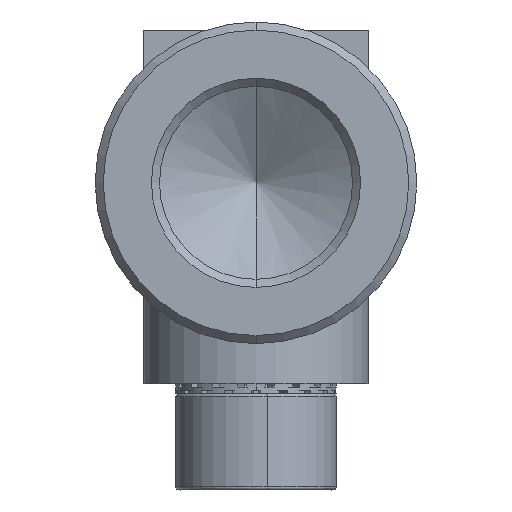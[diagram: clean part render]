
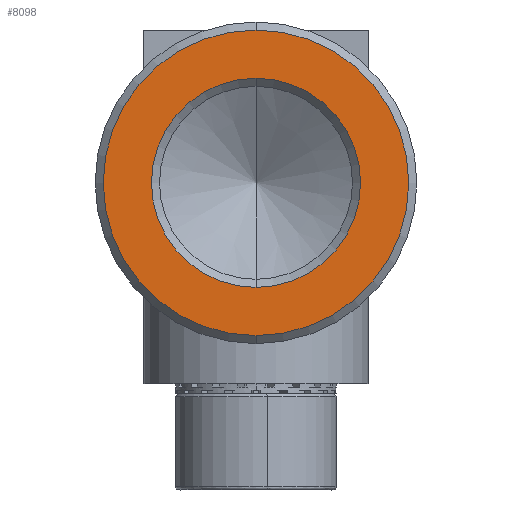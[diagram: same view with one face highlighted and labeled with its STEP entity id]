
A CAD part, front view. The second image highlights one B-rep face of the part: STEP entity #8098.
In plain terms, the highlighted planar face has unit normal (0, -1, 0).
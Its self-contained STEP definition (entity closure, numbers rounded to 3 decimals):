
#310 = EDGE_LOOP ( 'NONE', ( #1474, #7161 ) ) ;
#324 = DIRECTION ( 'NONE',  ( 0., 0., -1. ) ) ;
#728 = DIRECTION ( 'NONE',  ( 0., 0., -1. ) ) ;
#1307 = EDGE_CURVE ( 'NONE', #7015, #9405, #9366, .T. ) ;
#1474 = ORIENTED_EDGE ( 'NONE', *, *, #2916, .T. ) ;
#1588 = DIRECTION ( 'NONE',  ( 0., 0., -1. ) ) ;
#1803 = ORIENTED_EDGE ( 'NONE', *, *, #2741, .T. ) ;
#1867 = PLANE ( 'NONE',  #2177 ) ;
#1916 = VERTEX_POINT ( 'NONE', #8517 ) ;
#2177 = AXIS2_PLACEMENT_3D ( 'NONE', #3542, #5874, #324 ) ;
#2407 = DIRECTION ( 'NONE',  ( 0., -1., 0. ) ) ;
#2441 = CARTESIAN_POINT ( 'NONE',  ( -12.789, -145.81, 1.5 ) ) ;
#2638 = VERTEX_POINT ( 'NONE', #7727 ) ;
#2741 = EDGE_CURVE ( 'NONE', #1916, #2638, #3861, .T. ) ;
#2916 = EDGE_CURVE ( 'NONE', #9405, #7015, #5468, .T. ) ;
#2975 = ORIENTED_EDGE ( 'NONE', *, *, #9807, .T. ) ;
#3542 = CARTESIAN_POINT ( 'NONE',  ( -22.403, -145.81, 11.114 ) ) ;
#3861 = CIRCLE ( 'NONE', #7567, 6.5 ) ;
#3955 = AXIS2_PLACEMENT_3D ( 'NONE', #4526, #7032, #4688 ) ;
#4526 = CARTESIAN_POINT ( 'NONE',  ( -12.789, -145.81, 1.5 ) ) ;
#4688 = DIRECTION ( 'NONE',  ( 0., 0., 1. ) ) ;
#5468 = CIRCLE ( 'NONE', #3955, 9.5 ) ;
#5652 = DIRECTION ( 'NONE',  ( 0., 1., 0. ) ) ;
#5874 = DIRECTION ( 'NONE',  ( 0., -1., 0. ) ) ;
#6022 = FACE_BOUND ( 'NONE', #9736, .T. ) ;
#6424 = CARTESIAN_POINT ( 'NONE',  ( -12.789, -145.81, 1.5 ) ) ;
#7015 = VERTEX_POINT ( 'NONE', #8487 ) ;
#7017 = AXIS2_PLACEMENT_3D ( 'NONE', #8038, #2407, #7986 ) ;
#7032 = DIRECTION ( 'NONE',  ( 0., -1., 0. ) ) ;
#7161 = ORIENTED_EDGE ( 'NONE', *, *, #1307, .T. ) ;
#7567 = AXIS2_PLACEMENT_3D ( 'NONE', #6424, #5652, #728 ) ;
#7727 = CARTESIAN_POINT ( 'NONE',  ( -12.789, -145.81, -5. ) ) ;
#7986 = DIRECTION ( 'NONE',  ( 0., 0., 1. ) ) ;
#8038 = CARTESIAN_POINT ( 'NONE',  ( -12.789, -145.81, 1.5 ) ) ;
#8098 = ADVANCED_FACE ( 'NONE', ( #6022, #8246 ), #1867, .T. ) ;
#8246 = FACE_OUTER_BOUND ( 'NONE', #310, .T. ) ;
#8443 = CIRCLE ( 'NONE', #10126, 6.5 ) ;
#8487 = CARTESIAN_POINT ( 'NONE',  ( -12.789, -145.81, -8. ) ) ;
#8517 = CARTESIAN_POINT ( 'NONE',  ( -12.789, -145.81, 8. ) ) ;
#8520 = CARTESIAN_POINT ( 'NONE',  ( -12.789, -145.81, 11. ) ) ;
#8862 = DIRECTION ( 'NONE',  ( 0., 1., 0. ) ) ;
#9366 = CIRCLE ( 'NONE', #7017, 9.5 ) ;
#9405 = VERTEX_POINT ( 'NONE', #8520 ) ;
#9736 = EDGE_LOOP ( 'NONE', ( #2975, #1803 ) ) ;
#9807 = EDGE_CURVE ( 'NONE', #2638, #1916, #8443, .T. ) ;
#10126 = AXIS2_PLACEMENT_3D ( 'NONE', #2441, #8862, #1588 ) ;
